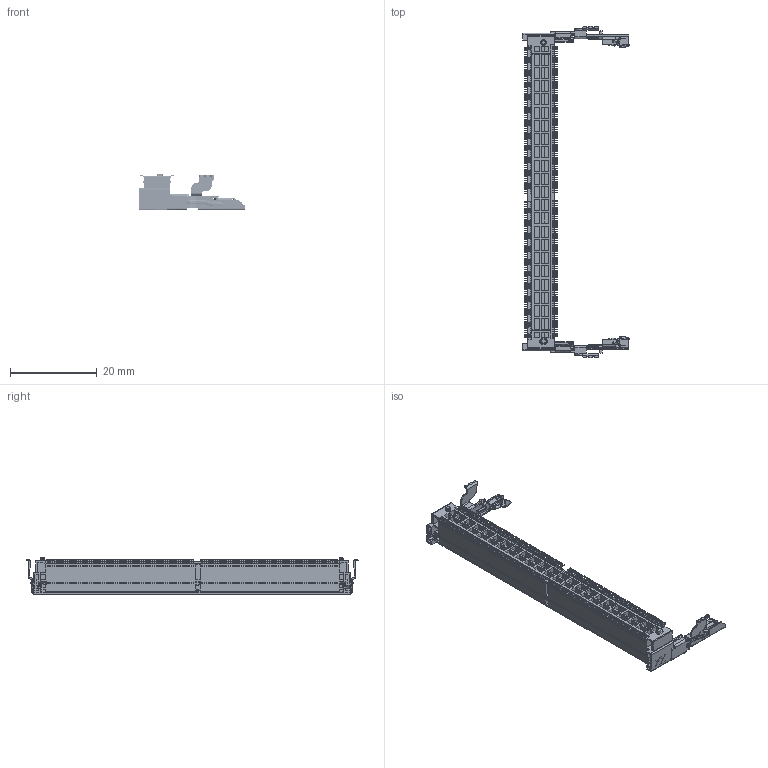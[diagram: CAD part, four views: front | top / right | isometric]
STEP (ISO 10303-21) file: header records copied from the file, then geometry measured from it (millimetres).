
FILE_DESCRIPTION((''),'2;1');
FILE_NAME('D5ASX-262XX-XX80X','2022-06-20T13:49:22',('MichaelSun'),(''),'CREO PARAMETRIC BY PTC INC, 2016390','CREO PARAMETRIC BY PTC INC, 2016390','');
FILE_SCHEMA(('AUTOMOTIVE_DESIGN { 1 0 10303 214 1 1 1 1 }'));
Products named in the file (1): D5ASX-262XX-XX80X
Bounding box: 24.41 x 76.41 x 8.45 mm (x, y, z)
Volume: 2230.9 mm3; surface area: 5539.7 mm2
Topology: 1 solids, 1 shells, 10603 faces, 28121 edges, 18587 vertices
Faces by surface type: plane 7224, cylinder 3089, bspline 128, cone 82, torus 78, sphere 2
Entity records: 399848 total; most frequent: CARTESIAN_POINT 62853, ORIENTED_EDGE 56238, DIRECTION 55230, EDGE_CURVE 28119, VECTOR 21384, LINE 21384, VERTEX_POINT 18587, AXIS2_PLACEMENT_3D 16923
